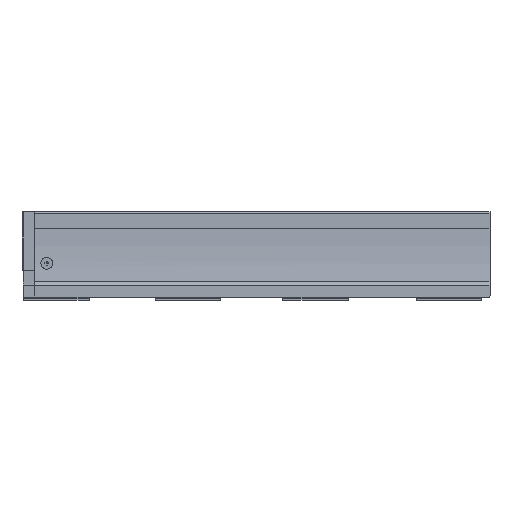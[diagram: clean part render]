
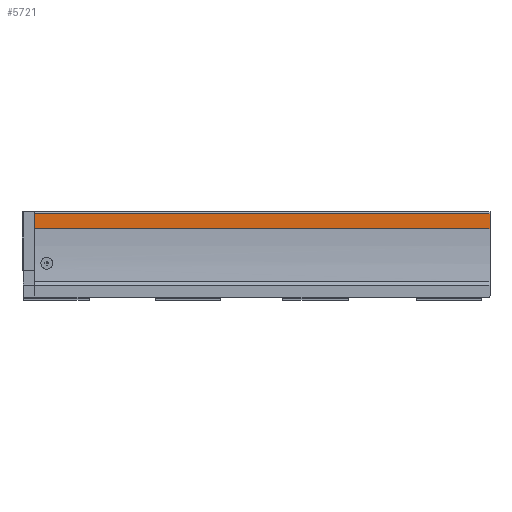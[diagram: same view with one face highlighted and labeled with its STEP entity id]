
A CAD part, left-side view. The second image highlights one B-rep face of the part: STEP entity #5721.
In plain terms, the highlighted planar face has unit normal (-1, 0, 0).
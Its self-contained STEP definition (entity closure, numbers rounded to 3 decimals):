
#608 = EDGE_LOOP ( 'NONE', ( #843, #919, #920, #921 ) ) ;
#843 = ORIENTED_EDGE ( 'NONE', *, *, #4444, .F. ) ;
#919 = ORIENTED_EDGE ( 'NONE', *, *, #4084, .T. ) ;
#920 = ORIENTED_EDGE ( 'NONE', *, *, #4200, .T. ) ;
#921 = ORIENTED_EDGE ( 'NONE', *, *, #4103, .F. ) ;
#1346 = VERTEX_POINT ( 'NONE', #1675 ) ;
#1352 = VERTEX_POINT ( 'NONE', #1681 ) ;
#1386 = VERTEX_POINT ( 'NONE', #1715 ) ;
#1391 = VERTEX_POINT ( 'NONE', #1720 ) ;
#1675 = CARTESIAN_POINT ( 'NONE',  ( -19.87, 0., 78.498 ) ) ;
#1681 = CARTESIAN_POINT ( 'NONE',  ( -19.87, 623.8, 78.498 ) ) ;
#1715 = CARTESIAN_POINT ( 'NONE',  ( -19.87, 0., 57.888 ) ) ;
#1720 = CARTESIAN_POINT ( 'NONE',  ( -19.87, 623.8, 57.888 ) ) ;
#2647 = CARTESIAN_POINT ( 'NONE',  ( -19.87, 640., 57.888 ) ) ;
#2648 = DIRECTION ( 'NONE',  ( 0., -1., 0. ) ) ;
#2870 = LINE ( 'NONE', #4801, #2988 ) ;
#2908 = LINE ( 'NONE', #2647, #2915 ) ;
#2915 = VECTOR ( 'NONE', #2648, 1000. ) ;
#2927 = LINE ( 'NONE', #4641, #3009 ) ;
#2988 = VECTOR ( 'NONE', #4808, 1000. ) ;
#3009 = VECTOR ( 'NONE', #4642, 1000. ) ;
#3235 = VECTOR ( 'NONE', #5300, 1000. ) ;
#3236 = LINE ( 'NONE', #5299, #3235 ) ;
#3448 = FACE_OUTER_BOUND ( 'NONE', #608, .T. ) ;
#3773 = AXIS2_PLACEMENT_3D ( 'NONE', #5559, #5562, #5563 ) ;
#4084 = EDGE_CURVE ( 'NONE', #1391, #1386, #2908, .T. ) ;
#4103 = EDGE_CURVE ( 'NONE', #1352, #1346, #2927, .T. ) ;
#4200 = EDGE_CURVE ( 'NONE', #1386, #1346, #2870, .T. ) ;
#4444 = EDGE_CURVE ( 'NONE', #1391, #1352, #3236, .T. ) ;
#4641 = CARTESIAN_POINT ( 'NONE',  ( -19.87, 640., 78.498 ) ) ;
#4642 = DIRECTION ( 'NONE',  ( 0., -1., 0. ) ) ;
#4801 = CARTESIAN_POINT ( 'NONE',  ( -19.87, 0., 78.498 ) ) ;
#4808 = DIRECTION ( 'NONE',  ( 0., 0., 1. ) ) ;
#5299 = CARTESIAN_POINT ( 'NONE',  ( -19.87, 623.8, 78.498 ) ) ;
#5300 = DIRECTION ( 'NONE',  ( 0., 0., 1. ) ) ;
#5559 = CARTESIAN_POINT ( 'NONE',  ( -19.87, 640., 78.498 ) ) ;
#5560 = PLANE ( 'NONE',  #3773 ) ;
#5562 = DIRECTION ( 'NONE',  ( 1., 0., 0. ) ) ;
#5563 = DIRECTION ( 'NONE',  ( 0., 0., 1. ) ) ;
#5721 = ADVANCED_FACE ( 'NONE', ( #3448 ), #5560, .F. ) ;
